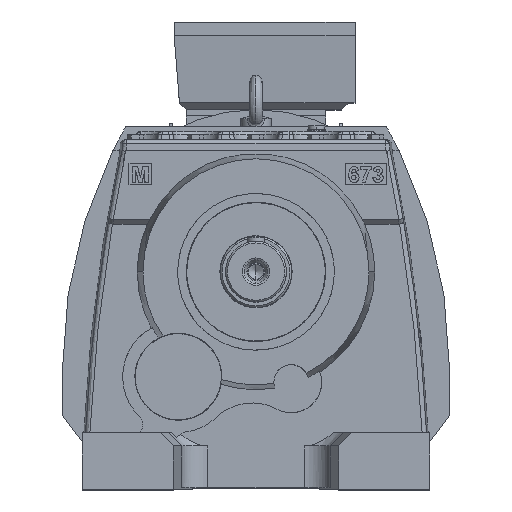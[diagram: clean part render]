
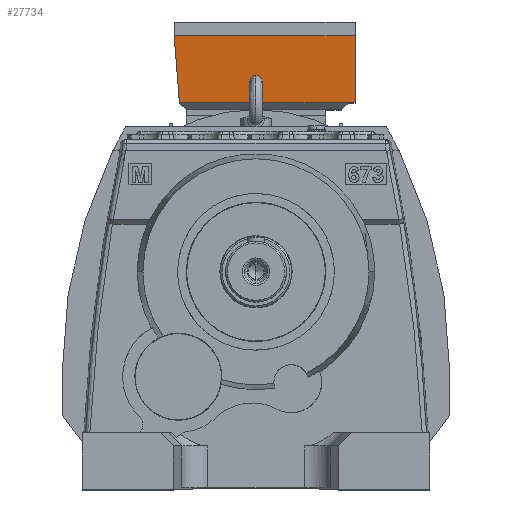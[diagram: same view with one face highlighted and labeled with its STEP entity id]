
A CAD part, top view. The second image highlights one B-rep face of the part: STEP entity #27734.
In plain terms, the highlighted planar face has unit normal (0, -0.078, 0.997).
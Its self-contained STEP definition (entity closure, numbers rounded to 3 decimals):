
#2466 = LINE ( 'NONE', #23752, #2473 ) ;
#2473 = VECTOR ( 'NONE', #23718, 1000. ) ;
#2482 = LINE ( 'NONE', #23880, #2498 ) ;
#2498 = VECTOR ( 'NONE', #23871, 1000. ) ;
#2506 = VECTOR ( 'NONE', #23815, 1000. ) ;
#2508 = LINE ( 'NONE', #23727, #2506 ) ;
#3293 = FACE_OUTER_BOUND ( 'NONE', #30477, .T. ) ;
#17423 = ORIENTED_EDGE ( 'NONE', *, *, #44970, .T. ) ;
#17545 = ORIENTED_EDGE ( 'NONE', *, *, #45079, .F. ) ;
#17547 = ORIENTED_EDGE ( 'NONE', *, *, #45075, .T. ) ;
#17553 = ORIENTED_EDGE ( 'NONE', *, *, #44965, .T. ) ;
#17608 = ORIENTED_EDGE ( 'NONE', *, *, #45065, .T. ) ;
#23380 = CARTESIAN_POINT ( 'NONE',  ( 114., 208., 168.5 ) ) ;
#23456 = DIRECTION ( 'NONE',  ( 0., 0.997, 0.078 ) ) ;
#23459 = CARTESIAN_POINT ( 'NONE',  ( -94., 285., 174.5 ) ) ;
#23461 = DIRECTION ( 'NONE',  ( 0.077, -0.994, -0.077 ) ) ;
#23718 = DIRECTION ( 'NONE',  ( 1., 0., 0. ) ) ;
#23727 = CARTESIAN_POINT ( 'NONE',  ( -150., 208., 168.5 ) ) ;
#23752 = CARTESIAN_POINT ( 'NONE',  ( 106., 208., 168.5 ) ) ;
#23815 = DIRECTION ( 'NONE',  ( 1., 0., 0. ) ) ;
#23871 = DIRECTION ( 'NONE',  ( 1., 0., 0. ) ) ;
#23880 = CARTESIAN_POINT ( 'NONE',  ( -150., 285., 174.5 ) ) ;
#27734 = ADVANCED_FACE ( 'NONE', ( #3293 ), #85404, .F. ) ;
#30477 = EDGE_LOOP ( 'NONE', ( #17423, #17547, #17608, #17553, #17545 ) ) ;
#35239 = VERTEX_POINT ( 'NONE', #81796 ) ;
#35268 = VERTEX_POINT ( 'NONE', #81825 ) ;
#35277 = VERTEX_POINT ( 'NONE', #81909 ) ;
#35282 = VERTEX_POINT ( 'NONE', #81874 ) ;
#35302 = VERTEX_POINT ( 'NONE', #81878 ) ;
#44965 = EDGE_CURVE ( 'NONE', #35239, #35282, #82502, .T. ) ;
#44970 = EDGE_CURVE ( 'NONE', #35268, #35302, #82451, .T. ) ;
#45065 = EDGE_CURVE ( 'NONE', #35277, #35239, #2466, .T. ) ;
#45075 = EDGE_CURVE ( 'NONE', #35302, #35277, #2508, .T. ) ;
#45079 = EDGE_CURVE ( 'NONE', #35268, #35282, #2482, .T. ) ;
#68364 = AXIS2_PLACEMENT_3D ( 'NONE', #85388, #85391, #85379 ) ;
#81796 = CARTESIAN_POINT ( 'NONE',  ( 114., 208., 168.5 ) ) ;
#81825 = CARTESIAN_POINT ( 'NONE',  ( -94., 285., 174.5 ) ) ;
#81874 = CARTESIAN_POINT ( 'NONE',  ( 114., 285., 174.5 ) ) ;
#81878 = CARTESIAN_POINT ( 'NONE',  ( -88., 208., 168.5 ) ) ;
#81909 = CARTESIAN_POINT ( 'NONE',  ( 106., 208., 168.5 ) ) ;
#82451 = LINE ( 'NONE', #23459, #82494 ) ;
#82494 = VECTOR ( 'NONE', #23461, 1000. ) ;
#82502 = LINE ( 'NONE', #23380, #82504 ) ;
#82504 = VECTOR ( 'NONE', #23456, 1000. ) ;
#85379 = DIRECTION ( 'NONE',  ( 0., 0.997, 0.078 ) ) ;
#85388 = CARTESIAN_POINT ( 'NONE',  ( -150., 285., 174.5 ) ) ;
#85391 = DIRECTION ( 'NONE',  ( 0., 0.078, -0.997 ) ) ;
#85404 = PLANE ( 'NONE',  #68364 ) ;
